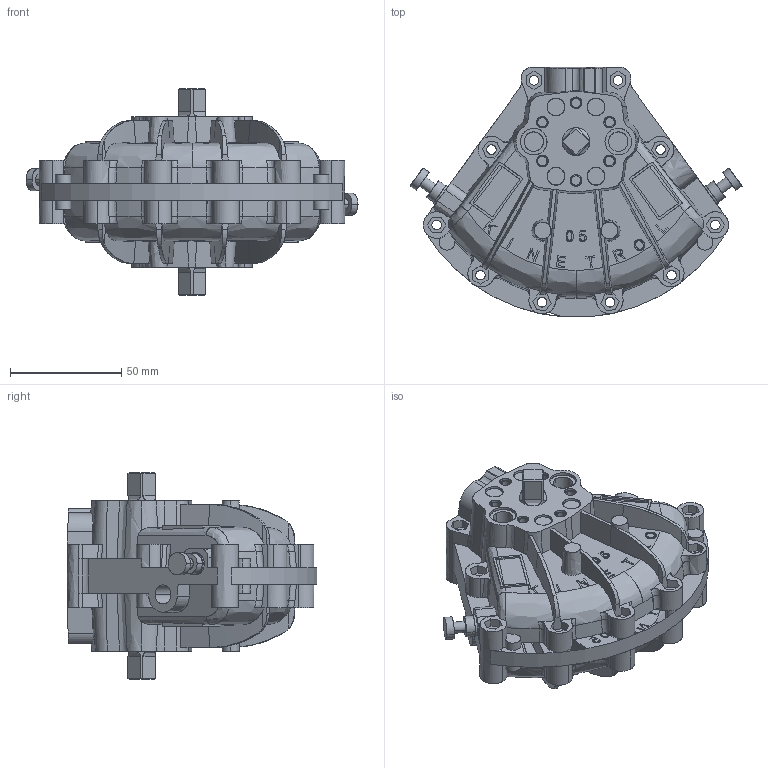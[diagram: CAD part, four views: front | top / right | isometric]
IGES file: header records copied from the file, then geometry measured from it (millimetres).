
Start section: Comment
Global section: file name: 054-100.igs; native system:  By Spatial Corp.; preprocessor: XPlus GENERIC/IGES 3.0; author: Author; organization: Title; date: 20080508.162646; units: inch
Bounding box: 149.29 x 112.41 x 93 mm (x, y, z)
Surface area: 58685.1 mm2 (no closed solid volume)
Topology: 0 solids, 0 shells, 1158 faces, 6516 edges, 6516 vertices
Faces by surface type: bspline 1158
